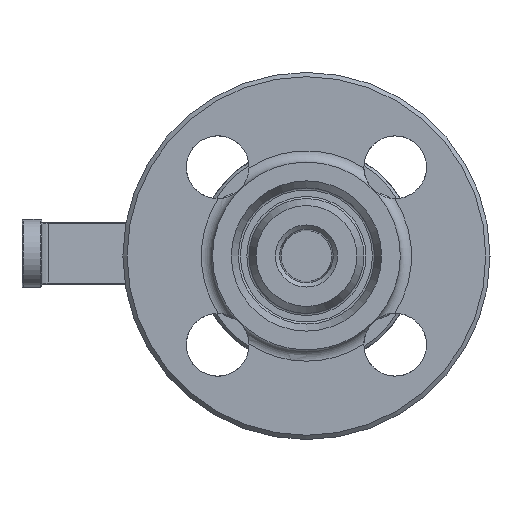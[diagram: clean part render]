
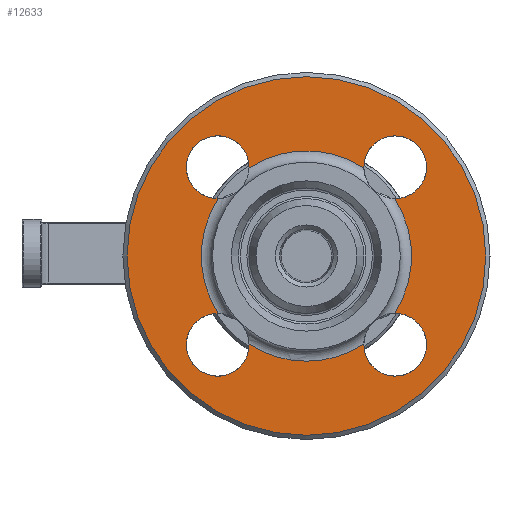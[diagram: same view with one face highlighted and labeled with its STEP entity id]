
A CAD part, left-side view. The second image highlights one B-rep face of the part: STEP entity #12633.
In plain terms, the highlighted planar face has unit normal (-1, 0, 0).
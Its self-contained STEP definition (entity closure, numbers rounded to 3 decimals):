
#351=FACE_BOUND('',#2243,.T.);
#788=PLANE('',#13986);
#1472=FACE_OUTER_BOUND('',#2242,.T.);
#2242=EDGE_LOOP('',(#11530));
#2243=EDGE_LOOP('',(#11531,#11532,#11533,#11534,#11535,#11536,#11537,#11538,
#11539,#11540,#11541,#11542,#11543));
#4865=CIRCLE('',#13939,11.11);
#4866=CIRCLE('',#13940,11.11);
#4868=CIRCLE('',#13943,11.11);
#4869=CIRCLE('',#13944,11.11);
#4871=CIRCLE('',#13947,11.11);
#4872=CIRCLE('',#13948,11.11);
#4874=CIRCLE('',#13951,11.11);
#4875=CIRCLE('',#13952,11.11);
#4877=CIRCLE('',#13955,37.25);
#4881=CIRCLE('',#13959,37.25);
#4882=CIRCLE('',#13960,37.25);
#4883=CIRCLE('',#13961,37.25);
#4884=CIRCLE('',#13962,37.25);
#4899=CIRCLE('',#13985,63.5);
#6079=VERTEX_POINT('',#26139);
#6080=VERTEX_POINT('',#26140);
#6081=VERTEX_POINT('',#26142);
#6083=VERTEX_POINT('',#26172);
#6084=VERTEX_POINT('',#26173);
#6085=VERTEX_POINT('',#26175);
#6087=VERTEX_POINT('',#26205);
#6088=VERTEX_POINT('',#26206);
#6089=VERTEX_POINT('',#26208);
#6091=VERTEX_POINT('',#26238);
#6092=VERTEX_POINT('',#26239);
#6093=VERTEX_POINT('',#26241);
#6095=VERTEX_POINT('',#26271);
#6110=VERTEX_POINT('',#26320);
#7902=EDGE_CURVE('',#6079,#6080,#4865,.T.);
#7904=EDGE_CURVE('',#6080,#6081,#4866,.T.);
#7907=EDGE_CURVE('',#6083,#6084,#4868,.T.);
#7909=EDGE_CURVE('',#6084,#6085,#4869,.T.);
#7912=EDGE_CURVE('',#6087,#6088,#4871,.T.);
#7914=EDGE_CURVE('',#6088,#6089,#4872,.T.);
#7917=EDGE_CURVE('',#6091,#6092,#4874,.T.);
#7919=EDGE_CURVE('',#6092,#6093,#4875,.T.);
#7922=EDGE_CURVE('',#6079,#6095,#4877,.T.);
#7926=EDGE_CURVE('',#6095,#6089,#4881,.T.);
#7927=EDGE_CURVE('',#6087,#6085,#4882,.T.);
#7928=EDGE_CURVE('',#6083,#6093,#4883,.T.);
#7929=EDGE_CURVE('',#6091,#6081,#4884,.T.);
#7948=EDGE_CURVE('',#6110,#6110,#4899,.T.);
#11530=ORIENTED_EDGE('',*,*,#7948,.T.);
#11531=ORIENTED_EDGE('',*,*,#7902,.T.);
#11532=ORIENTED_EDGE('',*,*,#7904,.T.);
#11533=ORIENTED_EDGE('',*,*,#7929,.F.);
#11534=ORIENTED_EDGE('',*,*,#7917,.T.);
#11535=ORIENTED_EDGE('',*,*,#7919,.T.);
#11536=ORIENTED_EDGE('',*,*,#7928,.F.);
#11537=ORIENTED_EDGE('',*,*,#7907,.T.);
#11538=ORIENTED_EDGE('',*,*,#7909,.T.);
#11539=ORIENTED_EDGE('',*,*,#7927,.F.);
#11540=ORIENTED_EDGE('',*,*,#7912,.T.);
#11541=ORIENTED_EDGE('',*,*,#7914,.T.);
#11542=ORIENTED_EDGE('',*,*,#7926,.F.);
#11543=ORIENTED_EDGE('',*,*,#7922,.F.);
#12633=ADVANCED_FACE('',(#1472,#351),#788,.T.);
#13939=AXIS2_PLACEMENT_3D('',#26141,#17407,#17408);
#13940=AXIS2_PLACEMENT_3D('',#26167,#17409,#17410);
#13943=AXIS2_PLACEMENT_3D('',#26174,#17416,#17417);
#13944=AXIS2_PLACEMENT_3D('',#26200,#17418,#17419);
#13947=AXIS2_PLACEMENT_3D('',#26207,#17425,#17426);
#13948=AXIS2_PLACEMENT_3D('',#26233,#17427,#17428);
#13951=AXIS2_PLACEMENT_3D('',#26240,#17434,#17435);
#13952=AXIS2_PLACEMENT_3D('',#26266,#17436,#17437);
#13955=AXIS2_PLACEMENT_3D('',#26272,#17443,#17444);
#13959=AXIS2_PLACEMENT_3D('',#26278,#17451,#17452);
#13960=AXIS2_PLACEMENT_3D('',#26279,#17453,#17454);
#13961=AXIS2_PLACEMENT_3D('',#26280,#17455,#17456);
#13962=AXIS2_PLACEMENT_3D('',#26281,#17457,#17458);
#13985=AXIS2_PLACEMENT_3D('',#26321,#17507,#17508);
#13986=AXIS2_PLACEMENT_3D('',#26323,#17510,#17511);
#17407=DIRECTION('center_axis',(1.,0.,0.));
#17408=DIRECTION('ref_axis',(0.,-1.,0.));
#17409=DIRECTION('center_axis',(1.,0.,0.));
#17410=DIRECTION('ref_axis',(0.,-1.,0.));
#17416=DIRECTION('center_axis',(1.,0.,0.));
#17417=DIRECTION('ref_axis',(0.,-1.,0.));
#17418=DIRECTION('center_axis',(1.,0.,0.));
#17419=DIRECTION('ref_axis',(0.,-1.,0.));
#17425=DIRECTION('center_axis',(1.,0.,0.));
#17426=DIRECTION('ref_axis',(0.,-1.,0.));
#17427=DIRECTION('center_axis',(1.,0.,0.));
#17428=DIRECTION('ref_axis',(0.,-1.,0.));
#17434=DIRECTION('center_axis',(1.,0.,0.));
#17435=DIRECTION('ref_axis',(0.,-1.,0.));
#17436=DIRECTION('center_axis',(1.,0.,0.));
#17437=DIRECTION('ref_axis',(0.,-1.,0.));
#17443=DIRECTION('center_axis',(-1.,0.,0.));
#17444=DIRECTION('ref_axis',(0.,0.,1.));
#17451=DIRECTION('center_axis',(-1.,0.,0.));
#17452=DIRECTION('ref_axis',(0.,0.,1.));
#17453=DIRECTION('center_axis',(-1.,0.,0.));
#17454=DIRECTION('ref_axis',(0.,0.,1.));
#17455=DIRECTION('center_axis',(-1.,0.,0.));
#17456=DIRECTION('ref_axis',(0.,0.,1.));
#17457=DIRECTION('center_axis',(-1.,0.,0.));
#17458=DIRECTION('ref_axis',(0.,0.,1.));
#17507=DIRECTION('center_axis',(-1.,0.,0.));
#17508=DIRECTION('ref_axis',(0.,0.,1.));
#17510=DIRECTION('center_axis',(-1.,0.,0.));
#17511=DIRECTION('ref_axis',(0.,0.,1.));
#26139=CARTESIAN_POINT('',(1823.291,1341.974,-207.187));
#26140=CARTESIAN_POINT('',(1823.291,1364.192,-207.4));
#26141=CARTESIAN_POINT('Origin',(1823.291,1353.082,-207.4));
#26142=CARTESIAN_POINT('',(1823.291,1352.869,-196.292));
#26167=CARTESIAN_POINT('Origin',(1823.291,1353.082,-207.4));
#26172=CARTESIAN_POINT('',(1823.291,1301.329,-144.751));
#26173=CARTESIAN_POINT('',(1823.291,1301.331,-144.538));
#26174=CARTESIAN_POINT('Origin',(1823.291,1290.221,-144.538));
#26175=CARTESIAN_POINT('',(1823.291,1290.434,-155.646));
#26200=CARTESIAN_POINT('Origin',(1823.291,1290.221,-144.538));
#26205=CARTESIAN_POINT('',(1823.291,1290.434,-196.292));
#26206=CARTESIAN_POINT('',(1823.291,1301.331,-207.4));
#26207=CARTESIAN_POINT('Origin',(1823.291,1290.221,-207.4));
#26208=CARTESIAN_POINT('',(1823.291,1301.329,-207.187));
#26233=CARTESIAN_POINT('Origin',(1823.291,1290.221,-207.4));
#26238=CARTESIAN_POINT('',(1823.291,1352.869,-155.646));
#26239=CARTESIAN_POINT('',(1823.291,1364.192,-144.538));
#26240=CARTESIAN_POINT('Origin',(1823.291,1353.082,-144.538));
#26241=CARTESIAN_POINT('',(1823.291,1341.974,-144.751));
#26266=CARTESIAN_POINT('Origin',(1823.291,1353.082,-144.538));
#26271=CARTESIAN_POINT('',(1823.291,1321.652,-213.219));
#26272=CARTESIAN_POINT('Origin',(1823.291,1321.652,-175.969));
#26278=CARTESIAN_POINT('Origin',(1823.291,1321.652,-175.969));
#26279=CARTESIAN_POINT('Origin',(1823.291,1321.652,-175.969));
#26280=CARTESIAN_POINT('Origin',(1823.291,1321.652,-175.969));
#26281=CARTESIAN_POINT('Origin',(1823.291,1321.652,-175.969));
#26320=CARTESIAN_POINT('',(1823.291,1385.152,-175.969));
#26321=CARTESIAN_POINT('Origin',(1823.291,1321.652,-175.969));
#26323=CARTESIAN_POINT('Origin',(1823.291,1284.402,-175.969));
